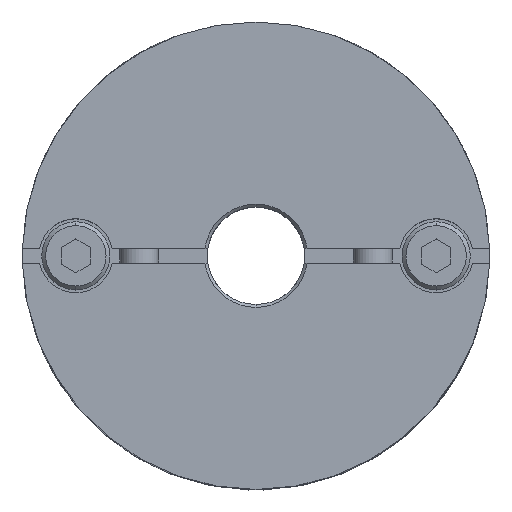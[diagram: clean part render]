
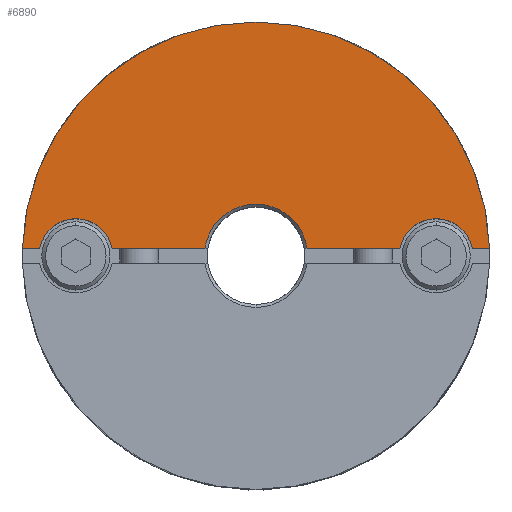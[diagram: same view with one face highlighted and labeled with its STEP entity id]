
A CAD part, top view. The second image highlights one B-rep face of the part: STEP entity #6890.
In plain terms, the highlighted planar face has unit normal (0, 0, 1).
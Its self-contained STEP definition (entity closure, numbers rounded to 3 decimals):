
#553=CARTESIAN_POINT('',(0.,5.3,19.3));
#554=VERTEX_POINT('',#553);
#563=CARTESIAN_POINT('',(-5.247,0.75,19.3));
#564=VERTEX_POINT('',#563);
#565=CARTESIAN_POINT('',(0.,0.,19.3));
#566=DIRECTION('',(0.0,0.0,1.0));
#567=DIRECTION('',(0.0,-1.0,0.0));
#568=AXIS2_PLACEMENT_3D('',#565,#566,#567);
#569=CIRCLE('',#568,5.3);
#570=EDGE_CURVE('',#554,#564,#569,.T.);
#742=CARTESIAN_POINT('',(0.,24.,19.3));
#743=VERTEX_POINT('',#742);
#827=CARTESIAN_POINT('',(-23.988,0.75,19.3));
#828=VERTEX_POINT('',#827);
#835=CARTESIAN_POINT('',(0.,0.,19.3));
#836=DIRECTION('',(0.0,0.0,-1.0));
#837=DIRECTION('',(0.0,1.0,0.0));
#838=AXIS2_PLACEMENT_3D('',#835,#836,#837);
#839=CIRCLE('',#838,24.0);
#840=EDGE_CURVE('',#828,#743,#839,.T.);
#1041=CARTESIAN_POINT('',(-18.5,3.8,19.3));
#1042=VERTEX_POINT('',#1041);
#1051=CARTESIAN_POINT('',(-22.225,0.75,19.3));
#1052=VERTEX_POINT('',#1051);
#1053=CARTESIAN_POINT('',(-18.5,0.,19.3));
#1054=DIRECTION('',(0.0,0.0,-1.0));
#1055=DIRECTION('',(0.0,1.0,0.0));
#1056=AXIS2_PLACEMENT_3D('',#1053,#1054,#1055);
#1057=CIRCLE('',#1056,3.8);
#1058=EDGE_CURVE('',#1052,#1042,#1057,.T.);
#1125=CARTESIAN_POINT('',(18.5,3.8,19.3));
#1126=VERTEX_POINT('',#1125);
#1135=CARTESIAN_POINT('',(14.775,0.75,19.3));
#1136=VERTEX_POINT('',#1135);
#1137=CARTESIAN_POINT('',(18.5,0.,19.3));
#1138=DIRECTION('',(0.0,0.0,-1.0));
#1139=DIRECTION('',(0.0,1.0,0.0));
#1140=AXIS2_PLACEMENT_3D('',#1137,#1138,#1139);
#1141=CIRCLE('',#1140,3.8);
#1142=EDGE_CURVE('',#1136,#1126,#1141,.T.);
#6566=CARTESIAN_POINT('',(22.225,0.75,19.3));
#6567=VERTEX_POINT('',#6566);
#6574=CARTESIAN_POINT('',(18.5,0.,19.3));
#6575=DIRECTION('',(0.0,0.0,-1.0));
#6576=DIRECTION('',(0.0,1.0,0.0));
#6577=AXIS2_PLACEMENT_3D('',#6574,#6575,#6576);
#6578=CIRCLE('',#6577,3.8);
#6579=EDGE_CURVE('',#1126,#6567,#6578,.T.);
#6632=CARTESIAN_POINT('',(-14.775,0.75,19.3));
#6633=VERTEX_POINT('',#6632);
#6640=CARTESIAN_POINT('',(-18.5,0.,19.3));
#6641=DIRECTION('',(0.0,0.0,-1.0));
#6642=DIRECTION('',(0.0,1.0,0.0));
#6643=AXIS2_PLACEMENT_3D('',#6640,#6641,#6642);
#6644=CIRCLE('',#6643,3.8);
#6645=EDGE_CURVE('',#1042,#6633,#6644,.T.);
#6664=CARTESIAN_POINT('',(23.988,0.75,19.3));
#6665=VERTEX_POINT('',#6664);
#6672=CARTESIAN_POINT('',(22.225,0.75,19.3));
#6673=DIRECTION('',(1.0,0.0,0.0));
#6674=VECTOR('',#6673,1.763);
#6675=LINE('',#6672,#6674);
#6676=EDGE_CURVE('',#6567,#6665,#6675,.T.);
#6687=CARTESIAN_POINT('',(5.247,0.75,19.3));
#6688=VERTEX_POINT('',#6687);
#6689=CARTESIAN_POINT('',(5.247,0.75,19.3));
#6690=DIRECTION('',(1.0,0.0,0.0));
#6691=VECTOR('',#6690,9.528);
#6692=LINE('',#6689,#6691);
#6693=EDGE_CURVE('',#6688,#1136,#6692,.T.);
#6849=CARTESIAN_POINT('',(0.,2.182,19.3));
#6850=DIRECTION('',(0.0,0.0,1.0));
#6851=DIRECTION('',(0.0,1.0,0.0));
#6852=AXIS2_PLACEMENT_3D('',#6849,#6850,#6851);
#6853=PLANE('',#6852);
#6854=ORIENTED_EDGE('',*,*,#1142,.T.);
#6855=ORIENTED_EDGE('',*,*,#6579,.T.);
#6856=ORIENTED_EDGE('',*,*,#6676,.T.);
#6857=CARTESIAN_POINT('',(0.,0.,19.3));
#6858=DIRECTION('',(0.0,0.0,-1.0));
#6859=DIRECTION('',(0.0,1.0,0.0));
#6860=AXIS2_PLACEMENT_3D('',#6857,#6858,#6859);
#6861=CIRCLE('',#6860,24.0);
#6862=EDGE_CURVE('',#743,#6665,#6861,.T.);
#6863=ORIENTED_EDGE('',*,*,#6862,.F.);
#6864=ORIENTED_EDGE('',*,*,#840,.F.);
#6865=CARTESIAN_POINT('',(-23.988,0.75,19.3));
#6866=DIRECTION('',(1.0,0.0,0.0));
#6867=VECTOR('',#6866,1.763);
#6868=LINE('',#6865,#6867);
#6869=EDGE_CURVE('',#828,#1052,#6868,.T.);
#6870=ORIENTED_EDGE('',*,*,#6869,.T.);
#6871=ORIENTED_EDGE('',*,*,#1058,.T.);
#6872=ORIENTED_EDGE('',*,*,#6645,.T.);
#6873=CARTESIAN_POINT('',(-14.775,0.75,19.3));
#6874=DIRECTION('',(1.0,0.0,0.0));
#6875=VECTOR('',#6874,9.528);
#6876=LINE('',#6873,#6875);
#6877=EDGE_CURVE('',#6633,#564,#6876,.T.);
#6878=ORIENTED_EDGE('',*,*,#6877,.T.);
#6879=ORIENTED_EDGE('',*,*,#570,.F.);
#6880=CARTESIAN_POINT('',(0.,0.,19.3));
#6881=DIRECTION('',(0.0,0.0,1.0));
#6882=DIRECTION('',(0.0,-1.0,0.0));
#6883=AXIS2_PLACEMENT_3D('',#6880,#6881,#6882);
#6884=CIRCLE('',#6883,5.3);
#6885=EDGE_CURVE('',#6688,#554,#6884,.T.);
#6886=ORIENTED_EDGE('',*,*,#6885,.F.);
#6887=ORIENTED_EDGE('',*,*,#6693,.T.);
#6888=EDGE_LOOP('',(#6854,#6855,#6856,#6863,#6864,#6870,#6871,#6872,#6878,#6879,#6886,#6887));
#6889=FACE_OUTER_BOUND('',#6888,.T.);
#6890=ADVANCED_FACE('',(#6889),#6853,.T.);
